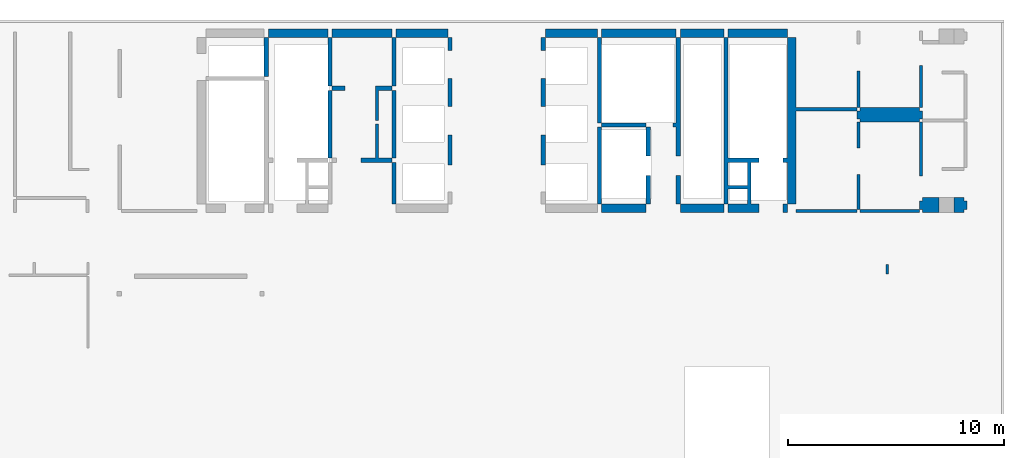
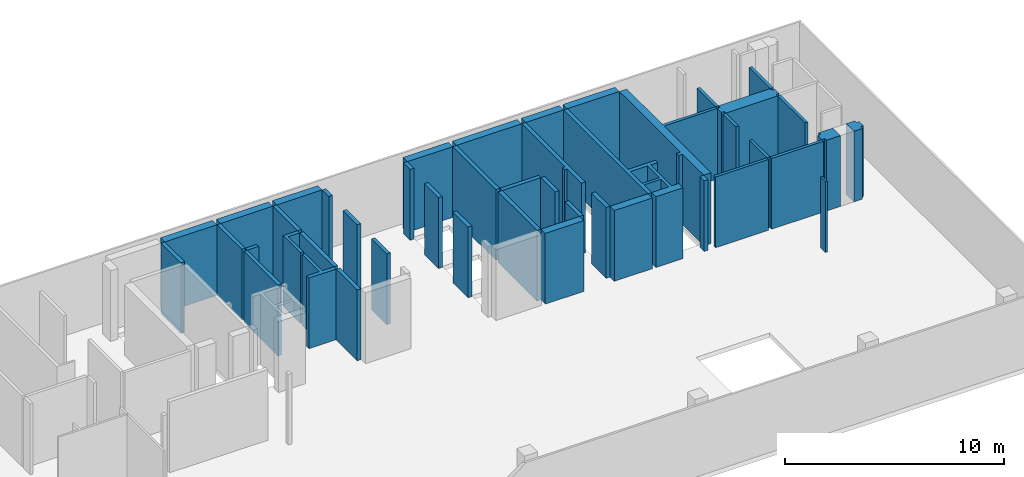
# One storey, part 2 of 4: 45 walls.
"""IFC4 building model written with IfcOpenShell, lengths in millimetres."""

from ifc_helpers import new_model, si_unit, frame, origin, place, context, project, spatial, triangles, element, save


model = new_model("IFC4")

# Units and contexts
model_context = context("Model", 3, precision=0.001, world=origin())
ifc_project = project(units=[si_unit("LENGTHUNIT", "METRE", prefix="MILLI"), si_unit("AREAUNIT", "SQUARE_METRE"), si_unit("VOLUMEUNIT", "CUBIC_METRE")], contexts=[model_context])

# Site, building, storey
site_placement = place(None, origin())
site = spatial("IfcSite", under=ifc_project, at=site_placement, Name="Site", CompositionType="ELEMENT")
building_placement = place(site_placement, origin())
building = spatial("IfcBuilding", under=site, at=building_placement, Name="INNOCEAN", CompositionType="ELEMENT")
storey_placement = place(building_placement, frame((0.0, 0.0, 63800.0)))
storey = spatial("IfcBuildingStorey", under=building, at=storey_placement, Name="F15", CompositionType="ELEMENT", Elevation=63800.0)

# Walls
wall_1_placement = place(storey_placement, origin())
element("IfcWall", 1, at=wall_1_placement, inside=storey, Name="F15_Walls_F15_022", context=model_context, shape_type="Tessellation", body=[
    triangles([(16226.2, 25025.8, 0.0), (16226.2, 23222.2, 0.0), (16226.2, 23222.2, 3950.0), (16226.2, 25025.8, 3950.0), (16429.3, 25025.8, 0.0), (16429.3, 25025.8, 3950.0), (16429.3, 23222.2, 0.0), (16429.3, 23222.2, 3950.0)], [[1, 2, 3], [1, 3, 4], [5, 1, 4], [5, 4, 6], [7, 5, 6], [7, 6, 8], [2, 7, 8], [2, 8, 3], [1, 5, 7], [1, 7, 2], [6, 4, 8], [8, 4, 3]], closed=True),
])
wall_2_placement = place(storey_placement, origin())
element("IfcWall", 2, at=wall_2_placement, inside=storey, Name="F15_Walls_F15_025", context=model_context, shape_type="Tessellation", body=[
    triangles([(19183.7, 25025.8, 0.0), (19183.7, 25419.5, 0.0), (19183.7, 25419.5, 3950.0), (19183.7, 25025.8, 3950.0), (16429.3, 25025.8, 0.0), (16429.3, 25025.8, 3950.0), (16429.3, 25419.5, 0.0), (16429.3, 25419.5, 3950.0)], [[1, 2, 3], [1, 3, 4], [5, 1, 4], [5, 4, 6], [7, 5, 6], [7, 6, 8], [2, 7, 8], [2, 8, 3], [7, 2, 1], [7, 1, 5], [3, 8, 4], [4, 8, 6]], closed=True),
])
wall_3_placement = place(storey_placement, origin())
element("IfcWall", 3, at=wall_3_placement, inside=storey, Name="F15_Walls_F15_030", context=model_context, shape_type="Tessellation", body=[
    triangles([(22331.6, 17316.1, 0.0), (22331.6, 19246.7, 0.0), (22331.6, 19246.7, 3950.0), (22331.6, 17316.1, 3950.0), (22128.5, 17316.1, 0.0), (22128.5, 17316.1, 3950.0), (22128.5, 19246.7, 0.0), (22128.5, 19246.7, 3950.0)], [[1, 2, 3], [1, 3, 4], [5, 1, 4], [5, 4, 6], [7, 5, 6], [7, 6, 8], [2, 7, 8], [2, 8, 3], [7, 2, 1], [7, 1, 5], [3, 8, 4], [4, 8, 6]], closed=True),
])
wall_4_placement = place(storey_placement, origin())
element("IfcWall", 4, at=wall_4_placement, inside=storey, Name="F15_Walls_F15_031", context=model_context, shape_type="Tessellation", body=[
    triangles([(31826.2, 20872.5, 0.0), (31826.2, 20872.5, 3950.0), (31826.2, 17316.1, 3950.0), (31826.2, 17316.1, 0.0), (31623.1, 17316.1, 3950.0), (31623.1, 17316.1, 0.0), (31623.1, 20872.5, 3950.0), (31623.1, 20872.5, 0.0)], [[1, 2, 3], [4, 1, 3], [4, 3, 5], [6, 4, 5], [6, 5, 7], [8, 6, 7], [8, 7, 2], [1, 8, 2], [8, 1, 4], [8, 4, 6], [2, 7, 3], [3, 7, 5]], closed=True),
])
wall_5_placement = place(storey_placement, origin())
element("IfcWall", 5, at=wall_5_placement, inside=storey, Name="F15_Walls_F15_033", context=model_context, shape_type="Tessellation", body=[
    triangles([(21366.9, 21024.9, 0.0), (21366.9, 19449.9, 0.0), (21366.9, 19449.9, 3950.0), (21366.9, 21024.9, 3950.0), (21519.3, 21024.9, 0.0), (21519.3, 21024.9, 3950.0), (21519.3, 19449.9, 0.0), (21519.3, 19449.9, 3950.0), (22128.5, 19449.9, 0.0), (22128.5, 19449.9, 3950.0), (22128.5, 19246.7, 0.0), (22128.5, 19246.7, 3950.0), (20694.2, 19246.7, 0.0), (20694.2, 19246.7, 3950.0), (20694.2, 19449.9, 0.0), (20694.2, 19449.9, 3950.0)], [[1, 2, 3], [1, 3, 4], [5, 1, 4], [5, 4, 6], [7, 5, 6], [7, 6, 8], [9, 7, 8], [9, 8, 10], [11, 9, 10], [11, 10, 12], [13, 11, 12], [13, 12, 14], [15, 13, 14], [15, 14, 16], [2, 15, 16], [2, 16, 3], [7, 9, 11], [2, 7, 11], [13, 2, 11], [15, 2, 13], [1, 5, 7], [1, 7, 2], [10, 8, 12], [8, 3, 12], [3, 14, 12], [3, 16, 14], [6, 4, 8], [8, 4, 3]], closed=True),
])
wall_6_placement = place(storey_placement, origin())
element("IfcWall", 6, at=wall_6_placement, inside=storey, Name="F15_Walls_F15_034", context=model_context, shape_type="Tessellation", body=[
    triangles([(24921.0, 19119.7, 0.0), (24921.0, 20516.8, 0.0), (24921.0, 20516.8, 3950.0), (24921.0, 19119.7, 3950.0), (24730.6, 19119.7, 0.0), (24730.6, 19119.7, 3950.0), (24730.6, 19120.0, 0.0), (24730.6, 19120.0, 3950.0), (24730.0, 19120.0, 0.0), (24730.0, 19120.0, 3950.0), (24730.0, 20515.0, 0.0), (24730.0, 20515.0, 3950.0), (24730.6, 20515.0, 0.0), (24730.6, 20515.0, 3950.0), (24730.6, 20516.8, 3950.0), (24730.6, 20516.8, 0.0)], [[1, 2, 3], [1, 3, 4], [5, 1, 4], [5, 4, 6], [7, 5, 6], [7, 6, 8], [9, 7, 8], [9, 8, 10], [11, 9, 10], [11, 10, 12], [13, 11, 12], [13, 12, 14], [13, 14, 15], [16, 13, 15], [2, 16, 15], [2, 15, 3], [7, 1, 5], [13, 2, 1], [13, 1, 7], [11, 7, 9], [11, 13, 7], [16, 2, 13], [4, 8, 6], [3, 14, 4], [4, 14, 8], [8, 12, 10], [14, 12, 8], [3, 15, 14]], closed=True),
])
wall_7_placement = place(storey_placement, origin())
element("IfcWall", 7, at=wall_7_placement, inside=storey, Name="F15_Walls_F15_035", context=model_context, shape_type="Tessellation", body=[
    triangles([(29224.0, 20516.8, 0.0), (29224.0, 20516.8, 3950.0), (29224.0, 20515.0, 3950.0), (29224.0, 20515.0, 0.0), (29225.0, 20515.0, 0.0), (29225.0, 20515.0, 3950.0), (29225.0, 19120.0, 0.0), (29225.0, 19120.0, 3950.0), (29224.0, 19120.0, 0.0), (29224.0, 19120.0, 3950.0), (29224.0, 19119.7, 0.0), (29224.0, 19119.7, 3950.0), (29020.9, 19119.7, 0.0), (29020.9, 19119.7, 3950.0), (29020.9, 19120.0, 0.0), (29020.9, 19120.0, 3950.0), (29020.0, 19120.0, 0.0), (29020.0, 19120.0, 3950.0), (29020.0, 20515.0, 0.0), (29020.0, 20515.0, 3950.0), (29020.9, 20515.0, 0.0), (29020.9, 20515.0, 3950.0), (29020.9, 20516.8, 3950.0), (29020.9, 20516.8, 0.0)], [[1, 2, 3], [4, 1, 3], [5, 4, 3], [5, 3, 6], [7, 5, 6], [7, 6, 8], [9, 7, 8], [9, 8, 10], [11, 9, 10], [11, 10, 12], [13, 11, 12], [13, 12, 14], [15, 13, 14], [15, 14, 16], [17, 15, 16], [17, 16, 18], [19, 17, 18], [19, 18, 20], [21, 19, 20], [21, 20, 22], [21, 22, 23], [24, 21, 23], [1, 24, 23], [1, 23, 2], [15, 9, 11], [15, 11, 13], [4, 5, 7], [4, 7, 9], [4, 9, 15], [21, 4, 15], [19, 15, 17], [19, 21, 15], [24, 1, 4], [24, 4, 21], [10, 16, 12], [12, 16, 14], [6, 3, 8], [8, 3, 10], [10, 3, 16], [3, 22, 16], [16, 20, 18], [22, 20, 16], [2, 23, 3], [3, 23, 22]], closed=True),
])
wall_8_placement = place(storey_placement, origin())
element("IfcWall", 8, at=wall_8_placement, inside=storey, Name="F15_Walls_F15_036", context=model_context, shape_type="Tessellation", body=[
    triangles([(19374.1, 19449.9, 0.0), (19374.1, 22574.4, 0.0), (19374.1, 22574.4, 3950.0), (19374.1, 19449.9, 3950.0), (19183.7, 19449.9, 0.0), (19183.7, 19449.9, 3950.0), (19183.7, 22574.4, 0.0), (19183.7, 22574.4, 3950.0)], [[1, 2, 3], [1, 3, 4], [5, 1, 4], [5, 4, 6], [7, 5, 6], [7, 6, 8], [2, 7, 8], [2, 8, 3], [2, 1, 5], [7, 2, 5], [4, 3, 6], [3, 8, 6]], closed=True),
])
wall_9_placement = place(storey_placement, origin())
element("IfcWall", 9, at=wall_9_placement, inside=storey, Name="F15_Walls_F15_037", context=model_context, shape_type="Tessellation", body=[
    triangles([(22331.6, 19449.9, 0.0), (22331.6, 22574.4, 0.0), (22331.6, 22574.4, 3950.0), (22331.6, 19449.9, 3950.0), (22128.5, 19449.9, 0.0), (22128.5, 19449.9, 3950.0), (22128.5, 22574.4, 0.0), (22128.5, 22574.4, 3950.0)], [[1, 2, 3], [1, 3, 4], [5, 1, 4], [5, 4, 6], [7, 5, 6], [7, 6, 8], [2, 7, 8], [2, 8, 3], [2, 1, 5], [7, 2, 5], [4, 3, 6], [3, 8, 6]], closed=True),
])
wall_10_placement = place(storey_placement, origin())
element("IfcWall", 10, at=wall_10_placement, inside=storey, Name="F15_Walls_F15_038", context=model_context, shape_type="Tessellation", body=[
    triangles([(22128.5, 22765.0, 0.0), (21366.9, 22765.0, 0.0), (21366.9, 22765.0, 3950.0), (22128.5, 22765.0, 3950.0), (22128.5, 22574.4, 3950.0), (22128.5, 22574.4, 0.0), (21519.3, 22574.4, 0.0), (21519.3, 22574.4, 3950.0), (21519.3, 21177.3, 0.0), (21519.3, 21177.3, 3950.0), (21366.9, 21177.3, 0.0), (21366.9, 21177.3, 3950.0), (21366.9, 22574.4, 0.0), (21366.9, 22574.4, 3950.0)], [[1, 2, 3], [1, 3, 4], [1, 4, 5], [6, 1, 5], [7, 6, 5], [7, 5, 8], [9, 7, 8], [9, 8, 10], [11, 9, 10], [11, 10, 12], [13, 11, 12], [13, 12, 14], [13, 14, 3], [2, 13, 3], [7, 1, 6], [13, 7, 9], [13, 9, 11], [2, 1, 7], [2, 7, 13], [4, 8, 5], [8, 14, 10], [10, 14, 12], [4, 3, 8], [8, 3, 14]], closed=True),
])
wall_11_placement = place(storey_placement, origin())
element("IfcWall", 11, at=wall_11_placement, inside=storey, Name="F15_Walls_F15_039", context=model_context, shape_type="Tessellation", body=[
    triangles([(24730.6, 23120.6, 0.0), (24730.6, 23120.0, 0.0), (24730.6, 23120.0, 3950.0), (24730.6, 23120.6, 3950.0), (24921.0, 23120.6, 0.0), (24921.0, 23120.6, 3950.0), (24921.0, 21825.1, 0.0), (24921.0, 21825.1, 3950.0), (24920.0, 21825.1, 0.0), (24920.0, 21825.1, 3950.0), (24920.0, 21825.0, 0.0), (24920.0, 21825.0, 3950.0), (24730.0, 21825.0, 0.0), (24730.0, 21825.0, 3950.0), (24730.0, 23120.0, 3950.0), (24730.0, 23120.0, 0.0)], [[1, 2, 3], [1, 3, 4], [5, 1, 4], [5, 4, 6], [7, 5, 6], [7, 6, 8], [9, 7, 8], [9, 8, 10], [11, 9, 10], [11, 10, 12], [13, 11, 12], [13, 12, 14], [13, 14, 15], [16, 13, 15], [2, 16, 15], [2, 15, 3], [13, 9, 11], [5, 7, 9], [2, 5, 9], [2, 9, 13], [1, 5, 2], [16, 2, 13], [10, 14, 12], [8, 6, 10], [6, 3, 10], [10, 3, 14], [6, 4, 3], [3, 15, 14]], closed=True),
])
wall_12_placement = place(storey_placement, origin())
element("IfcWall", 12, at=wall_12_placement, inside=storey, Name="F15_Walls_F15_040", context=model_context, shape_type="Tessellation", body=[
    triangles([(29020.9, 23120.6, 0.0), (29020.9, 23120.0, 0.0), (29020.9, 23120.0, 3950.0), (29020.9, 23120.6, 3950.0), (29224.0, 23120.6, 0.0), (29224.0, 23120.6, 3950.0), (29224.0, 23120.0, 0.0), (29224.0, 23120.0, 3950.0), (29225.0, 23120.0, 0.0), (29225.0, 23120.0, 3950.0), (29225.0, 21825.0, 3950.0), (29225.0, 21825.0, 0.0), (29020.0, 21825.0, 0.0), (29020.0, 21825.0, 3950.0), (29020.0, 23120.0, 3950.0), (29020.0, 23120.0, 0.0)], [[1, 2, 3], [1, 3, 4], [5, 1, 4], [5, 4, 6], [7, 5, 6], [7, 6, 8], [9, 7, 8], [9, 8, 10], [9, 10, 11], [12, 9, 11], [13, 12, 11], [13, 11, 14], [13, 14, 15], [16, 13, 15], [2, 16, 15], [2, 15, 3], [7, 9, 12], [7, 12, 13], [2, 7, 13], [1, 5, 7], [1, 7, 2], [16, 2, 13], [10, 8, 11], [11, 8, 14], [8, 3, 14], [6, 4, 8], [8, 4, 3], [3, 15, 14]], closed=True),
])
wall_13_placement = place(storey_placement, origin())
element("IfcWall", 13, at=wall_13_placement, inside=storey, Name="F15_Walls_F15_041", context=model_context, shape_type="Tessellation", body=[
    triangles([(19970.7, 22765.0, 0.0), (19970.7, 22765.0, 3950.0), (19970.7, 22574.4, 3950.0), (19970.7, 22574.4, 0.0), (19374.1, 22574.4, 0.0), (19374.1, 22574.4, 3950.0), (19374.1, 22765.0, 3950.0), (19374.1, 22765.0, 0.0)], [[1, 2, 3], [4, 1, 3], [5, 4, 3], [5, 3, 6], [5, 6, 7], [8, 5, 7], [1, 8, 7], [1, 7, 2], [8, 1, 4], [8, 4, 5], [2, 7, 3], [3, 7, 6]], closed=True),
])
wall_14_placement = place(storey_placement, origin())
element("IfcWall", 14, at=wall_14_placement, inside=storey, Name="F15_Walls_F15_042", context=model_context, shape_type="Tessellation", body=[
    triangles([(19374.1, 22765.0, 0.0), (19374.1, 25025.8, 0.0), (19374.1, 25025.8, 3950.0), (19374.1, 22765.0, 3950.0), (19183.7, 22765.0, 0.0), (19183.7, 22765.0, 3950.0), (19183.7, 25025.8, 0.0), (19183.7, 25025.8, 3950.0)], [[1, 2, 3], [1, 3, 4], [5, 1, 4], [5, 4, 6], [7, 5, 6], [7, 6, 8], [2, 7, 8], [2, 8, 3], [7, 2, 1], [7, 1, 5], [3, 8, 4], [4, 8, 6]], closed=True),
])
wall_15_placement = place(storey_placement, origin())
element("IfcWall", 15, at=wall_15_placement, inside=storey, Name="F15_Walls_F15_043", context=model_context, shape_type="Tessellation", body=[
    triangles([(22331.6, 22765.0, 0.0), (22331.6, 25025.8, 0.0), (22331.6, 25025.8, 3950.0), (22331.6, 22765.0, 3950.0), (22128.5, 22765.0, 0.0), (22128.5, 22765.0, 3950.0), (22128.5, 25025.8, 0.0), (22128.5, 25025.8, 3950.0)], [[1, 2, 3], [1, 3, 4], [5, 1, 4], [5, 4, 6], [7, 5, 6], [7, 6, 8], [2, 7, 8], [2, 8, 3], [7, 2, 1], [7, 1, 5], [3, 8, 4], [4, 8, 6]], closed=True),
])
wall_16_placement = place(storey_placement, origin())
element("IfcWall", 16, at=wall_16_placement, inside=storey, Name="F15_Walls_F15_044", context=model_context, shape_type="Tessellation", body=[
    triangles([(24921.0, 24416.1, 0.0), (24921.0, 25025.8, 0.0), (24921.0, 25025.8, 3950.0), (24921.0, 24416.1, 3950.0), (24730.6, 24416.1, 0.0), (24730.6, 24416.1, 3950.0), (24730.6, 25025.8, 0.0), (24730.6, 25025.8, 3950.0)], [[1, 2, 3], [1, 3, 4], [5, 1, 4], [5, 4, 6], [7, 5, 6], [7, 6, 8], [2, 7, 8], [2, 8, 3], [7, 2, 1], [7, 1, 5], [3, 8, 4], [4, 8, 6]], closed=True),
])
wall_17_placement = place(storey_placement, origin())
element("IfcWall", 17, at=wall_17_placement, inside=storey, Name="F15_Walls_F15_045", context=model_context, shape_type="Tessellation", body=[
    triangles([(29020.9, 24416.1, 0.0), (29224.0, 24416.1, 0.0), (29224.0, 24416.1, 3950.0), (29020.9, 24416.1, 3950.0), (29020.9, 25025.8, 0.0), (29020.9, 25025.8, 3950.0), (29224.0, 25025.8, 0.0), (29224.0, 25025.8, 3950.0)], [[1, 2, 3], [1, 3, 4], [5, 1, 4], [5, 4, 6], [7, 5, 6], [7, 6, 8], [2, 7, 8], [2, 8, 3], [5, 2, 1], [5, 7, 2], [3, 6, 4], [8, 6, 3]], closed=True),
])
wall_18_placement = place(storey_placement, origin())
element("IfcWall", 18, at=wall_18_placement, inside=storey, Name="F15_Walls_F15_046", context=model_context, shape_type="Tessellation", body=[
    triangles([(19374.1, 25025.8, 0.0), (22128.5, 25025.8, 0.0), (22128.5, 25025.8, 3950.0), (19374.1, 25025.8, 3950.0), (19374.1, 25419.5, 0.0), (19374.1, 25419.5, 3950.0), (22128.5, 25419.5, 0.0), (22128.5, 25419.5, 3950.0)], [[1, 2, 3], [1, 3, 4], [5, 1, 4], [5, 4, 6], [7, 5, 6], [7, 6, 8], [2, 7, 8], [2, 8, 3], [5, 2, 1], [5, 7, 2], [3, 6, 4], [8, 6, 3]], closed=True),
])
wall_19_placement = place(storey_placement, origin())
element("IfcWall", 19, at=wall_19_placement, inside=storey, Name="F15_Walls_F15_047", context=model_context, shape_type="Tessellation", body=[
    triangles([(31623.1, 25025.8, 0.0), (31623.1, 25419.5, 0.0), (31623.1, 25419.5, 3950.0), (31623.1, 25025.8, 3950.0), (29224.0, 25025.8, 0.0), (29224.0, 25025.8, 3950.0), (29224.0, 25419.5, 0.0), (29224.0, 25419.5, 3950.0)], [[1, 2, 3], [1, 3, 4], [5, 1, 4], [5, 4, 6], [7, 5, 6], [7, 6, 8], [2, 7, 8], [2, 8, 3], [7, 2, 1], [7, 1, 5], [3, 8, 4], [4, 8, 6]], closed=True),
])
wall_20_placement = place(storey_placement, origin())
element("IfcWall", 20, at=wall_20_placement, inside=storey, Name="F15_Walls_F15_048", context=model_context, shape_type="Tessellation", body=[
    triangles([(24730.6, 25025.8, 0.0), (24730.6, 25419.5, 0.0), (24730.6, 25419.5, 3950.0), (24730.6, 25025.8, 3950.0), (22331.6, 25025.8, 0.0), (22331.6, 25025.8, 3950.0), (22331.6, 25419.5, 0.0), (22331.6, 25419.5, 3950.0)], [[1, 2, 3], [1, 3, 4], [5, 1, 4], [5, 4, 6], [7, 5, 6], [7, 6, 8], [2, 7, 8], [2, 8, 3], [7, 2, 1], [7, 1, 5], [3, 8, 4], [4, 8, 6]], closed=True),
])
wall_21_placement = place(storey_placement, origin())
element("IfcWall", 21, at=wall_21_placement, inside=storey, Name="F15_Walls_F15_049", context=model_context, shape_type="Tessellation", body=[
    triangles([(43618.2, 16922.4, 0.0), (43618.2, 17074.8, 0.0), (43618.2, 17074.8, 3950.0), (43618.2, 16922.4, 3950.0), (40813.0, 16922.4, 0.0), (40813.0, 16922.4, 3950.0), (40813.0, 17074.8, 0.0), (40813.0, 17074.8, 3950.0)], [[1, 2, 3], [1, 3, 4], [5, 1, 4], [5, 4, 6], [7, 5, 6], [7, 6, 8], [2, 7, 8], [2, 8, 3], [5, 2, 1], [7, 2, 5], [3, 6, 4], [3, 8, 6]], closed=True),
])
wall_22_placement = place(storey_placement, origin())
element("IfcWall", 22, at=wall_22_placement, inside=storey, Name="F15_Walls_F15_050", context=model_context, shape_type="Tessellation", body=[
    triangles([(37665.0, 16922.4, 0.0), (37665.0, 16922.4, 3950.0), (37665.0, 17316.1, 3950.0), (37665.0, 17316.1, 0.0), (39099.4, 16922.4, 0.0), (39099.4, 16922.4, 3950.0), (39099.4, 17316.1, 0.0), (39099.4, 17316.1, 3950.0), (38720.0, 17316.1, 0.0), (38720.0, 17316.1, 3950.0), (38720.0, 19245.0, 0.0), (38720.0, 19245.0, 3950.0), (39100.0, 19245.0, 0.0), (39100.0, 19245.0, 3950.0), (39100.0, 19450.0, 0.0), (39100.0, 19450.0, 3950.0), (37665.0, 19450.0, 0.0), (37665.0, 19450.0, 3950.0), (37665.0, 25025.8, 0.0), (37665.0, 25025.8, 3950.0), (37474.6, 25025.8, 0.0), (37474.6, 25025.8, 3950.0), (37474.6, 19449.9, 0.0), (37474.6, 19449.9, 3950.0), (37474.6, 17316.1, 0.0), (37474.6, 17316.1, 3950.0), (37665.0, 18014.7, 0.0), (37665.0, 18014.7, 3950.0), (38565.0, 18014.7, 0.0), (38565.0, 18014.7, 3950.0), (38565.0, 17316.1, 0.0), (38565.0, 17316.1, 3950.0), (38565.0, 19245.0, 0.0), (38565.0, 18167.1, 0.0), (38565.0, 18167.1, 3950.0), (38565.0, 19245.0, 3950.0), (37665.0, 18167.1, 0.0), (37665.0, 18167.1, 3950.0), (37665.0, 19245.0, 0.0), (37665.0, 19245.0, 3950.0)], [[1, 2, 3], [4, 1, 3], [1, 5, 6], [1, 6, 2], [7, 8, 6], [5, 7, 6], [7, 9, 10], [7, 10, 8], [9, 11, 12], [9, 12, 10], [13, 14, 12], [11, 13, 12], [13, 15, 16], [13, 16, 14], [15, 17, 18], [15, 18, 16], [17, 19, 20], [17, 20, 18], [19, 21, 22], [19, 22, 20], [21, 23, 24], [21, 24, 22], [23, 25, 26], [23, 26, 24], [25, 4, 3], [25, 3, 26], [4, 27, 28], [4, 28, 3], [27, 29, 30], [27, 30, 28], [29, 31, 32], [29, 32, 30], [31, 4, 3], [31, 3, 32], [33, 34, 35], [33, 35, 36], [34, 37, 38], [34, 38, 35], [37, 39, 40], [37, 40, 38], [39, 33, 36], [39, 36, 40], [9, 7, 5], [31, 9, 5], [1, 31, 5], [29, 9, 31], [4, 31, 1], [27, 4, 25], [37, 29, 27], [37, 34, 29], [37, 27, 25], [11, 15, 13], [33, 11, 34], [33, 15, 11], [17, 33, 39], [17, 15, 33], [23, 39, 37], [23, 17, 39], [23, 37, 25], [21, 19, 17], [21, 17, 23], [11, 9, 29], [11, 29, 34], [8, 10, 6], [10, 32, 6], [32, 2, 6], [10, 30, 32], [32, 3, 2], [3, 28, 26], [30, 38, 28], [35, 38, 30], [28, 38, 26], [16, 12, 14], [12, 36, 35], [16, 36, 12], [36, 18, 40], [16, 18, 36], [40, 24, 38], [18, 24, 40], [38, 24, 26], [20, 22, 18], [18, 22, 24], [10, 12, 30], [30, 12, 35]], closed=True),
])
wall_23_placement = place(storey_placement, origin())
element("IfcWall", 23, at=wall_23_placement, inside=storey, Name="F15_Walls_F15_051", context=model_context, shape_type="Tessellation", body=[
    triangles([(33869.8, 17316.1, 0.0), (33869.8, 17316.1, 3950.0), (33869.8, 16922.4, 3950.0), (33869.8, 16922.4, 0.0), (31826.2, 16922.4, 0.0), (31826.2, 16922.4, 3950.0), (31826.2, 17316.1, 3950.0), (31826.2, 17316.1, 0.0)], [[1, 2, 3], [4, 1, 3], [5, 4, 3], [5, 3, 6], [5, 6, 7], [8, 5, 7], [1, 8, 7], [1, 7, 2], [8, 1, 4], [8, 4, 5], [2, 7, 3], [3, 7, 6]], closed=True),
])
wall_24_placement = place(storey_placement, origin())
element("IfcWall", 24, at=wall_24_placement, inside=storey, Name="F15_Walls_F15_052", context=model_context, shape_type="Tessellation", body=[
    triangles([(37474.6, 17316.1, 0.0), (37474.6, 17316.1, 3950.0), (37474.6, 16922.4, 3950.0), (37474.6, 16922.4, 0.0), (35469.1, 16922.4, 0.0), (35469.1, 16922.4, 3950.0), (35469.1, 17316.1, 3950.0), (35469.1, 17316.1, 0.0)], [[1, 2, 3], [4, 1, 3], [5, 4, 3], [5, 3, 6], [5, 6, 7], [8, 5, 7], [1, 8, 7], [1, 7, 2], [8, 1, 4], [8, 4, 5], [2, 7, 3], [3, 7, 6]], closed=True),
])
wall_25_placement = place(storey_placement, origin())
element("IfcWall", 25, at=wall_25_placement, inside=storey, Name="F15_Walls_F15_053", context=model_context, shape_type="Tessellation", body=[
    triangles([(40419.5, 17316.1, 0.0), (40419.5, 17316.1, 3950.0), (40419.5, 16922.4, 3950.0), (40419.5, 16922.4, 0.0), (40216.4, 16922.4, 0.0), (40216.4, 16922.4, 3950.0), (40216.4, 17316.1, 3950.0), (40216.4, 17316.1, 0.0)], [[1, 2, 3], [4, 1, 3], [5, 4, 3], [5, 3, 6], [5, 6, 7], [8, 5, 7], [1, 8, 7], [1, 7, 2], [8, 1, 4], [8, 4, 5], [2, 7, 3], [3, 7, 6]], closed=True),
])
wall_26_placement = place(storey_placement, origin())
element("IfcWall", 26, at=wall_26_placement, inside=storey, Name="F15_Walls_F15_054", context=model_context, shape_type="Tessellation", body=[
    triangles([(43770.5, 17074.8, 0.0), (43770.5, 18675.1, 0.0), (43770.5, 18675.1, 3950.0), (43770.5, 17074.8, 3950.0), (43618.2, 17074.8, 0.0), (43618.2, 17074.8, 3950.0), (43618.2, 18675.1, 0.0), (43618.2, 18675.1, 3950.0)], [[1, 2, 3], [1, 3, 4], [5, 1, 4], [5, 4, 6], [7, 5, 6], [7, 6, 8], [2, 7, 8], [2, 8, 3], [2, 1, 5], [7, 2, 5], [4, 3, 6], [3, 8, 6]], closed=True),
])
wall_27_placement = place(storey_placement, origin())
element("IfcWall", 27, at=wall_27_placement, inside=storey, Name="F15_Walls_F15_055", context=model_context, shape_type="Tessellation", body=[
    triangles([(34072.9, 17316.1, 0.0), (34072.9, 18649.7, 0.0), (34072.9, 18649.7, 3950.0), (34072.9, 17316.1, 3950.0), (33869.8, 17316.1, 0.0), (33869.8, 17316.1, 3950.0), (33869.8, 18649.7, 0.0), (33869.8, 18649.7, 3950.0)], [[1, 2, 3], [1, 3, 4], [5, 1, 4], [5, 4, 6], [7, 5, 6], [7, 6, 8], [2, 7, 8], [2, 8, 3], [7, 2, 1], [7, 1, 5], [3, 8, 4], [4, 8, 6]], closed=True),
])
wall_28_placement = place(storey_placement, origin())
element("IfcWall", 28, at=wall_28_placement, inside=storey, Name="F15_Walls_F15_056", context=model_context, shape_type="Tessellation", body=[
    triangles([(35469.1, 17316.1, 0.0), (35469.1, 18649.7, 0.0), (35469.1, 18649.7, 3950.0), (35469.1, 17316.1, 3950.0), (35266.0, 17316.1, 0.0), (35266.0, 17316.1, 3950.0), (35266.0, 18649.7, 0.0), (35266.0, 18649.7, 3950.0)], [[1, 2, 3], [1, 3, 4], [5, 1, 4], [5, 4, 6], [7, 5, 6], [7, 6, 8], [2, 7, 8], [2, 8, 3], [7, 2, 1], [7, 1, 5], [3, 8, 4], [4, 8, 6]], closed=True),
])
wall_29_placement = place(storey_placement, origin())
element("IfcWall", 29, at=wall_29_placement, inside=storey, Name="F15_Walls_F15_057", context=model_context, shape_type="Tessellation", body=[
    triangles([(40215.0, 19450.0, 0.0), (40215.0, 19245.0, 0.0), (40215.0, 19245.0, 3950.0), (40215.0, 19450.0, 3950.0), (40419.5, 19450.0, 3950.0), (40419.5, 19450.0, 0.0), (40419.5, 25025.8, 0.0), (40419.5, 25025.8, 3950.0), (40813.0, 25025.8, 0.0), (40813.0, 25025.8, 3950.0), (40813.0, 21774.3, 0.0), (40813.0, 21774.3, 3950.0), (43618.2, 21774.3, 0.0), (43618.2, 21774.3, 3950.0), (43618.2, 21621.8, 0.0), (43618.2, 21621.8, 3950.0), (40813.0, 21621.8, 0.0), (40813.0, 21621.8, 3950.0), (40813.0, 19449.9, 0.0), (40813.0, 19449.9, 3950.0), (40813.0, 17316.1, 0.0), (40813.0, 17316.1, 3950.0), (40419.5, 17316.1, 0.0), (40419.5, 17316.1, 3950.0), (40419.5, 19245.0, 0.0), (40419.5, 19245.0, 3950.0)], [[1, 2, 3], [1, 3, 4], [1, 4, 5], [6, 1, 5], [7, 6, 5], [7, 5, 8], [9, 7, 8], [9, 8, 10], [11, 9, 10], [11, 10, 12], [13, 11, 12], [13, 12, 14], [15, 13, 14], [15, 14, 16], [17, 15, 16], [17, 16, 18], [19, 17, 18], [19, 18, 20], [21, 19, 20], [21, 20, 22], [23, 21, 22], [23, 22, 24], [25, 23, 24], [25, 24, 26], [25, 26, 3], [2, 25, 3], [25, 19, 21], [25, 21, 23], [6, 25, 2], [6, 19, 25], [1, 6, 2], [17, 19, 6], [11, 13, 15], [11, 15, 17], [7, 9, 11], [6, 7, 11], [6, 11, 17], [20, 26, 22], [22, 26, 24], [26, 5, 3], [20, 5, 26], [5, 4, 3], [20, 18, 5], [14, 12, 16], [16, 12, 18], [10, 8, 12], [8, 5, 12], [12, 5, 18]], closed=True),
])
wall_30_placement = place(storey_placement, origin())
element("IfcWall", 30, at=wall_30_placement, inside=storey, Name="F15_Walls_F15_058", context=model_context, shape_type="Tessellation", body=[
    triangles([(34072.9, 19551.5, 0.0), (34072.9, 20872.5, 0.0), (34072.9, 20872.5, 3950.0), (34072.9, 19551.5, 3950.0), (33869.8, 19551.5, 0.0), (33869.8, 19551.5, 3950.0), (33869.8, 20872.5, 0.0), (33869.8, 20872.5, 3950.0)], [[1, 2, 3], [1, 3, 4], [5, 1, 4], [5, 4, 6], [7, 5, 6], [7, 6, 8], [2, 7, 8], [2, 8, 3], [7, 2, 1], [7, 1, 5], [3, 8, 4], [4, 8, 6]], closed=True),
])
wall_31_placement = place(storey_placement, origin())
element("IfcWall", 31, at=wall_31_placement, inside=storey, Name="F15_Walls_F15_059", context=model_context, shape_type="Tessellation", body=[
    triangles([(35126.4, 21075.7, 0.0), (35126.4, 20872.5, 0.0), (35126.4, 20872.5, 3950.0), (35126.4, 21075.7, 3950.0), (35266.0, 21075.7, 0.0), (35266.0, 21075.7, 3950.0), (35266.0, 25025.8, 3950.0), (35266.0, 25025.8, 0.0), (35469.1, 25025.8, 0.0), (35469.1, 25025.8, 3950.0), (35469.1, 21075.7, 3950.0), (35469.1, 21075.7, 0.0), (35469.1, 20872.5, 0.0), (35469.1, 20872.5, 3950.0), (35469.1, 19551.5, 0.0), (35469.1, 19551.5, 3950.0), (35266.0, 19551.5, 0.0), (35266.0, 19551.5, 3950.0), (35266.0, 20872.5, 0.0), (35266.0, 20872.5, 3950.0)], [[1, 2, 3], [1, 3, 4], [5, 1, 4], [5, 4, 6], [7, 5, 6], [8, 5, 7], [9, 8, 7], [9, 7, 10], [11, 9, 10], [12, 9, 11], [13, 12, 11], [13, 11, 14], [15, 13, 14], [15, 14, 16], [17, 15, 16], [17, 16, 18], [19, 17, 18], [19, 18, 20], [2, 19, 20], [2, 20, 3], [19, 13, 15], [19, 15, 17], [12, 13, 19], [5, 12, 19], [1, 19, 2], [1, 5, 19], [8, 9, 12], [8, 12, 5], [14, 20, 16], [16, 20, 18], [14, 11, 20], [11, 6, 20], [20, 4, 3], [6, 4, 20], [10, 7, 11], [11, 7, 6]], closed=True),
])
wall_32_placement = place(storey_placement, origin())
element("IfcWall", 32, at=wall_32_placement, inside=storey, Name="F15_Walls_F15_060", context=model_context, shape_type="Tessellation", body=[
    triangles([(33869.8, 20872.5, 0.0), (33869.8, 21075.7, 0.0), (33869.8, 21075.7, 3950.0), (33869.8, 20872.5, 3950.0), (31826.2, 20872.5, 0.0), (31826.2, 20872.5, 3950.0), (31826.2, 21075.7, 0.0), (31826.2, 21075.7, 3950.0)], [[1, 2, 3], [1, 3, 4], [5, 1, 4], [5, 4, 6], [7, 5, 6], [7, 6, 8], [2, 7, 8], [2, 8, 3], [7, 2, 1], [7, 1, 5], [3, 8, 4], [4, 8, 6]], closed=True),
])
wall_33_placement = place(storey_placement, origin())
element("IfcWall", 33, at=wall_33_placement, inside=storey, Name="F15_Walls_F15_061", context=model_context, shape_type="Tessellation", body=[
    triangles([(43770.5, 21774.3, 0.0), (43770.5, 23476.2, 0.0), (43770.5, 23476.2, 3950.0), (43770.5, 21774.3, 3950.0), (43618.2, 21774.3, 0.0), (43618.2, 21774.3, 3950.0), (43618.2, 23476.2, 0.0), (43618.2, 23476.2, 3950.0)], [[1, 2, 3], [1, 3, 4], [5, 1, 4], [5, 4, 6], [7, 5, 6], [7, 6, 8], [2, 7, 8], [2, 8, 3], [7, 2, 1], [7, 1, 5], [3, 8, 4], [4, 8, 6]], closed=True),
])
wall_34_placement = place(storey_placement, origin())
element("IfcWall", 34, at=wall_34_placement, inside=storey, Name="F15_Walls_F15_062", context=model_context, shape_type="Tessellation", body=[
    triangles([(31826.2, 21075.7, 0.0), (31826.2, 21075.7, 3950.0), (31623.1, 21075.7, 3950.0), (31623.1, 21075.7, 0.0), (31623.1, 25025.8, 3950.0), (31623.1, 25025.8, 0.0), (31826.2, 25025.8, 3950.0), (31826.2, 25025.8, 0.0)], [[1, 2, 3], [4, 1, 3], [5, 4, 3], [6, 4, 5], [6, 5, 7], [8, 6, 7], [2, 8, 7], [1, 8, 2], [8, 1, 4], [6, 8, 4], [2, 7, 3], [7, 5, 3]], closed=True),
])
wall_35_placement = place(storey_placement, origin())
element("IfcWall", 35, at=wall_35_placement, inside=storey, Name="F15_Walls_F15_064", context=model_context, shape_type="Tessellation", body=[
    triangles([(40419.5, 25025.8, 0.0), (40419.5, 25419.5, 0.0), (40419.5, 25419.5, 3950.0), (40419.5, 25025.8, 3950.0), (37665.0, 25025.8, 0.0), (37665.0, 25025.8, 3950.0), (37665.0, 25419.5, 0.0), (37665.0, 25419.5, 3950.0)], [[1, 2, 3], [1, 3, 4], [5, 1, 4], [5, 4, 6], [7, 5, 6], [7, 6, 8], [2, 7, 8], [2, 8, 3], [7, 2, 1], [7, 1, 5], [3, 8, 4], [4, 8, 6]], closed=True),
])
wall_36_placement = place(storey_placement, origin())
element("IfcWall", 36, at=wall_36_placement, inside=storey, Name="F15_Walls_F15_065", context=model_context, shape_type="Tessellation", body=[
    triangles([(35266.0, 25025.8, 0.0), (35266.0, 25419.5, 0.0), (35266.0, 25419.5, 3950.0), (35266.0, 25025.8, 3950.0), (31826.2, 25025.8, 0.0), (31826.2, 25025.8, 3950.0), (31826.2, 25419.5, 0.0), (31826.2, 25419.5, 3950.0)], [[1, 2, 3], [1, 3, 4], [5, 1, 4], [5, 4, 6], [7, 5, 6], [7, 6, 8], [2, 7, 8], [2, 8, 3], [7, 2, 1], [7, 1, 5], [3, 8, 4], [4, 8, 6]], closed=True),
])
wall_37_placement = place(storey_placement, origin())
element("IfcWall", 37, at=wall_37_placement, inside=storey, Name="F15_Walls_F15_066", context=model_context, shape_type="Tessellation", body=[
    triangles([(37474.6, 25025.8, 0.0), (37474.6, 25419.5, 0.0), (37474.6, 25419.5, 3950.0), (37474.6, 25025.8, 3950.0), (35469.1, 25025.8, 0.0), (35469.1, 25025.8, 3950.0), (35469.1, 25419.5, 0.0), (35469.1, 25419.5, 3950.0)], [[1, 2, 3], [1, 3, 4], [5, 1, 4], [5, 4, 6], [7, 5, 6], [7, 6, 8], [2, 7, 8], [2, 8, 3], [7, 2, 1], [7, 1, 5], [3, 8, 4], [4, 8, 6]], closed=True),
])
wall_38_placement = place(storey_placement, origin())
element("IfcWall", 38, at=wall_38_placement, inside=storey, Name="F15_Walls_F15_067", context=model_context, shape_type="Tessellation", body=[
    triangles([(45077.9, 14077.3, 0.0), (45077.9, 14521.8, 0.0), (45077.9, 14521.8, 3950.0), (45077.9, 14077.3, 3950.0), (44976.3, 14077.3, 0.0), (44976.3, 14077.3, 3950.0), (44976.3, 14521.8, 0.0), (44976.3, 14521.8, 3950.0)], [[1, 2, 3], [1, 3, 4], [5, 1, 4], [5, 4, 6], [7, 5, 6], [7, 6, 8], [2, 7, 8], [2, 8, 3], [7, 2, 1], [7, 1, 5], [3, 8, 4], [4, 8, 6]], closed=True),
])
wall_39_placement = place(storey_placement, origin())
element("IfcWall", 39, at=wall_39_placement, inside=storey, Name="F15_Walls_F15_068", context=model_context, shape_type="Tessellation", body=[
    triangles([(46512.2, 16922.4, 0.0), (46512.2, 17074.8, 0.0), (46512.2, 17074.8, 3950.0), (46512.2, 16922.4, 3950.0), (43770.5, 16922.4, 0.0), (43770.5, 16922.4, 3950.0), (43770.5, 17074.8, 0.0), (43770.5, 17074.8, 3950.0)], [[1, 2, 3], [1, 3, 4], [5, 1, 4], [5, 4, 6], [7, 5, 6], [7, 6, 8], [2, 7, 8], [2, 8, 3], [7, 2, 1], [7, 1, 5], [3, 8, 4], [4, 8, 6]], closed=True),
])
wall_40_placement = place(storey_placement, origin())
element("IfcWall", 40, at=wall_40_placement, inside=storey, Name="F15_Walls_F15_069", context=model_context, shape_type="Tessellation", body=[
    triangles([(46512.2, 17468.5, 0.0), (46512.2, 17074.8, 0.0), (46512.2, 17074.8, 3950.0), (46512.2, 17468.5, 3950.0), (46664.5, 17468.5, 0.0), (46664.5, 17468.5, 3950.0), (46664.5, 17620.9, 0.0), (46664.5, 17620.9, 3950.0), (47413.4, 17620.9, 0.0), (47413.4, 17620.9, 3950.0), (47413.4, 17468.5, 0.0), (47413.4, 17468.5, 3950.0), (47413.4, 17074.8, 0.0), (47413.4, 17074.8, 3950.0), (47413.4, 16922.4, 0.0), (47413.4, 16922.4, 3950.0), (46664.5, 16922.4, 0.0), (46664.5, 16922.4, 3950.0), (46664.5, 17074.8, 0.0), (46664.5, 17074.8, 3950.0)], [[1, 2, 3], [1, 3, 4], [5, 1, 4], [5, 4, 6], [7, 5, 6], [7, 6, 8], [9, 7, 8], [9, 8, 10], [11, 9, 10], [11, 10, 12], [13, 11, 12], [13, 12, 14], [15, 13, 14], [15, 14, 16], [17, 15, 16], [17, 16, 18], [19, 17, 18], [19, 18, 20], [2, 19, 20], [2, 20, 3], [17, 13, 15], [19, 13, 17], [5, 11, 13], [5, 19, 2], [5, 13, 19], [1, 5, 2], [7, 9, 11], [7, 11, 5], [14, 18, 16], [14, 20, 18], [12, 6, 14], [20, 6, 3], [14, 6, 20], [6, 4, 3], [10, 8, 12], [12, 8, 6]], closed=True),
])
wall_41_placement = place(storey_placement, origin())
element("IfcWall", 41, at=wall_41_placement, inside=storey, Name="F15_Walls_F15_070", context=model_context, shape_type="Tessellation", body=[
    triangles([(48111.6, 17620.9, 0.0), (48111.6, 17468.5, 0.0), (48111.6, 17468.5, 3950.0), (48111.6, 17620.9, 3950.0), (48568.5, 17620.9, 0.0), (48568.5, 17620.9, 3950.0), (48568.5, 17468.5, 0.0), (48568.5, 17468.5, 3950.0), (48708.1, 17468.5, 0.0), (48708.1, 17468.5, 3950.0), (48708.1, 17074.8, 0.0), (48708.1, 17074.8, 3950.0), (48568.5, 17074.8, 0.0), (48568.5, 17074.8, 3950.0), (48568.5, 16922.4, 0.0), (48568.5, 16922.4, 3950.0), (48111.6, 16922.4, 0.0), (48111.6, 16922.4, 3950.0), (48111.6, 17074.8, 0.0), (48111.6, 17074.8, 3950.0)], [[1, 2, 3], [1, 3, 4], [5, 1, 4], [5, 4, 6], [7, 5, 6], [7, 6, 8], [9, 7, 8], [9, 8, 10], [11, 9, 10], [11, 10, 12], [13, 11, 12], [13, 12, 14], [15, 13, 14], [15, 14, 16], [17, 15, 16], [17, 16, 18], [19, 17, 18], [19, 18, 20], [2, 19, 20], [2, 20, 3], [7, 9, 11], [7, 11, 13], [19, 13, 15], [19, 15, 17], [19, 7, 13], [2, 7, 19], [1, 5, 7], [1, 7, 2], [10, 8, 12], [12, 8, 14], [14, 20, 16], [16, 20, 18], [8, 20, 14], [8, 3, 20], [6, 4, 8], [8, 4, 3]], closed=True),
])
wall_42_placement = place(storey_placement, origin())
element("IfcWall", 42, at=wall_42_placement, inside=storey, Name="F15_Walls_F15_072", context=model_context, shape_type="Tessellation", body=[
    triangles([(46664.5, 18624.3, 0.0), (46664.5, 21101.1, 0.0), (46664.5, 21101.1, 3950.0), (46664.5, 18624.3, 3950.0), (46512.2, 18624.3, 0.0), (46512.2, 18624.3, 3950.0), (46512.2, 21101.1, 0.0), (46512.2, 21101.1, 3950.0)], [[1, 2, 3], [1, 3, 4], [5, 1, 4], [5, 4, 6], [7, 5, 6], [7, 6, 8], [2, 7, 8], [2, 8, 3], [7, 2, 1], [7, 1, 5], [3, 8, 4], [4, 8, 6]], closed=True),
])
wall_43_placement = place(storey_placement, origin())
element("IfcWall", 43, at=wall_43_placement, inside=storey, Name="F15_Walls_F15_074", context=model_context, shape_type="Tessellation", body=[
    triangles([(43618.2, 19919.9, 0.0), (43770.5, 19919.9, 0.0), (43770.5, 19919.9, 3950.0), (43618.2, 19919.9, 3950.0), (43618.2, 21101.1, 0.0), (43618.2, 21101.1, 3950.0), (43770.5, 21101.1, 0.0), (43770.5, 21101.1, 3950.0)], [[1, 2, 3], [1, 3, 4], [5, 1, 4], [5, 4, 6], [7, 5, 6], [7, 6, 8], [2, 7, 8], [2, 8, 3], [5, 2, 1], [5, 7, 2], [3, 6, 4], [8, 6, 3]], closed=True),
])
wall_44_placement = place(storey_placement, origin())
element("IfcWall", 44, at=wall_44_placement, inside=storey, Name="F15_Walls_F15_075", context=model_context, shape_type="Tessellation", body=[
    triangles([(43770.5, 21774.3, 0.0), (43770.5, 21621.8, 0.0), (43770.5, 21621.8, 3950.0), (43770.5, 21774.3, 3950.0), (46512.2, 21774.3, 0.0), (46512.2, 21774.3, 3950.0), (46512.2, 21621.8, 0.0), (46512.2, 21621.8, 3950.0), (46664.5, 21621.8, 0.0), (46664.5, 21621.8, 3950.0), (46664.5, 21240.8, 3950.0), (46664.5, 21240.8, 0.0), (46512.2, 21240.8, 0.0), (46512.2, 21240.8, 3950.0), (46512.2, 21101.1, 3950.0), (46512.2, 21101.1, 0.0), (43770.5, 21101.1, 0.0), (43770.5, 21101.1, 3950.0), (43770.5, 21240.0, 0.0), (43770.5, 21240.0, 3950.0), (43770.0, 21240.0, 0.0), (43770.0, 21240.0, 3950.0), (43770.0, 21240.8, 0.0), (43770.0, 21240.8, 3950.0), (43618.2, 21240.8, 3950.0), (43618.2, 21240.8, 0.0), (43618.2, 21621.8, 3950.0), (43618.2, 21621.8, 0.0)], [[1, 2, 3], [1, 3, 4], [5, 1, 4], [5, 4, 6], [7, 5, 6], [7, 6, 8], [9, 7, 8], [9, 8, 10], [9, 10, 11], [12, 9, 11], [13, 12, 11], [13, 11, 14], [13, 14, 15], [16, 13, 15], [17, 16, 15], [17, 15, 18], [19, 17, 18], [19, 18, 20], [21, 19, 20], [21, 20, 22], [23, 21, 22], [23, 22, 24], [23, 24, 25], [26, 23, 25], [26, 25, 27], [28, 26, 27], [2, 28, 27], [2, 27, 3], [9, 12, 13], [7, 9, 13], [19, 13, 16], [19, 16, 17], [23, 19, 21], [2, 7, 13], [2, 13, 19], [2, 19, 23], [28, 23, 26], [28, 2, 23], [1, 5, 7], [1, 7, 2], [11, 10, 14], [10, 8, 14], [14, 20, 15], [15, 20, 18], [20, 24, 22], [8, 3, 14], [14, 3, 20], [20, 3, 24], [24, 27, 25], [3, 27, 24], [6, 4, 8], [8, 4, 3]], closed=True),
])
wall_45_placement = place(storey_placement, origin())
element("IfcWall", 45, at=wall_45_placement, inside=storey, Name="F15_Walls_F15_078", context=model_context, shape_type="Tessellation", body=[
    triangles([(46664.5, 21774.3, 0.0), (46664.5, 23717.6, 0.0), (46664.5, 23717.6, 3950.0), (46664.5, 21774.3, 3950.0), (46512.2, 21774.3, 0.0), (46512.2, 21774.3, 3950.0), (46512.2, 23717.6, 0.0), (46512.2, 23717.6, 3950.0)], [[1, 2, 3], [1, 3, 4], [5, 1, 4], [5, 4, 6], [7, 5, 6], [7, 6, 8], [2, 7, 8], [2, 8, 3], [7, 2, 1], [7, 1, 5], [3, 8, 4], [4, 8, 6]], closed=True),
])

save(model, "model.ifc")
